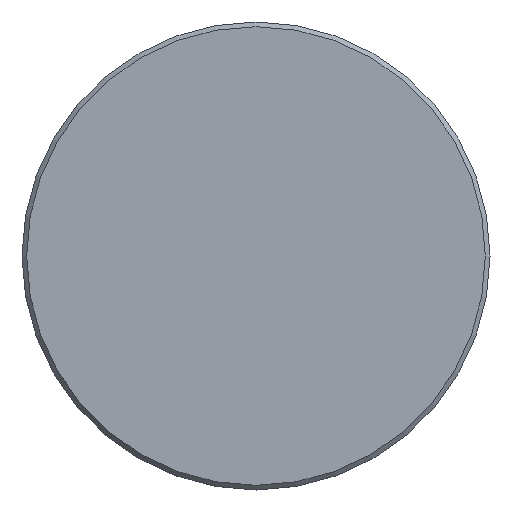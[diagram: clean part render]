
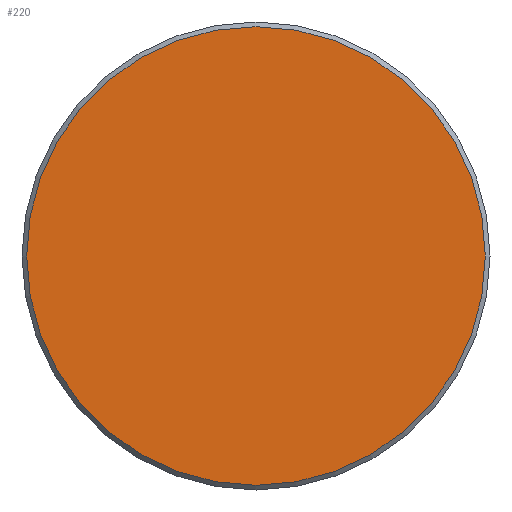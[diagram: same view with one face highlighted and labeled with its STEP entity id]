
A CAD part, front view. The second image highlights one B-rep face of the part: STEP entity #220.
In plain terms, the highlighted planar face has unit normal (0, -1, 0).
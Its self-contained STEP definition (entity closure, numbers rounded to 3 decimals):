
#220 = ADVANCED_FACE( '', ( #421 ), #422, .F. );
#421 = FACE_OUTER_BOUND( '', #617, .T. );
#422 = PLANE( '', #618 );
#617 = EDGE_LOOP( '', ( #979 ) );
#618 = AXIS2_PLACEMENT_3D( '', #980, #981, #982 );
#979 = ORIENTED_EDGE( '', *, *, #1224, .T. );
#980 = CARTESIAN_POINT( '', ( 24.5, 0., 0. ) );
#981 = DIRECTION( '', ( 0., 1., 0. ) );
#982 = DIRECTION( '', ( 0., 0., 1. ) );
#1224 = EDGE_CURVE( '', #1438, #1438, #1439, .T. );
#1438 = VERTEX_POINT( '', #1922 );
#1439 = CIRCLE( '', #1923, 24.5 );
#1922 = CARTESIAN_POINT( '', ( 0., 0., -24.5 ) );
#1923 = AXIS2_PLACEMENT_3D( '', #2076, #2077, #2078 );
#2076 = CARTESIAN_POINT( '', ( 0., 0., 0. ) );
#2077 = DIRECTION( '', ( 0., -1., 0. ) );
#2078 = DIRECTION( '', ( 0., 0., -1. ) );
